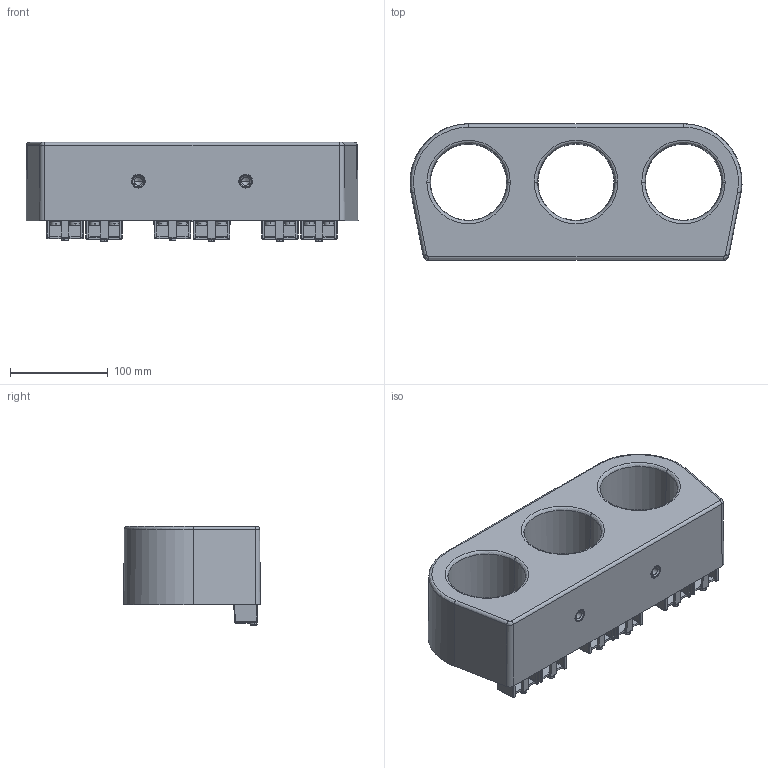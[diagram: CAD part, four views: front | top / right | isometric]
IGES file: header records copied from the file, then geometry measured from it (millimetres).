
Start section: IGES file generated from Kompas f.0 for Windows drawing by the IGES translator from Ascon Ltd., translator version IGESOUT-5.1.
Global section: file name: C:\Ðàáîòà\Èçâåùåíèÿ 5\ÒØÏ-ÍÒÇ-0.66-41 (Àíàëîã ÒØ-ÝÊ-0,66-Ì13)\3D ìîäåëü\ÒØÏ-ÍÒÇ-0,66-41.igs; native system: Kompas( 32 bit ) for Windows; preprocessor: 1.0; author: Ïîëüçîâàòåëü Windows; organization: Q; date: -17750311:092032; units: millimetre
Bounding box: 339.94 x 140 x 101.6 mm (x, y, z)
Volume: 2421648.6 mm3; surface area: 560624.6 mm2
Topology: 46 solids, 46 shells, 1170 faces, 2702 edges, 1630 vertices
Faces by surface type: revolution 690, bspline 480
